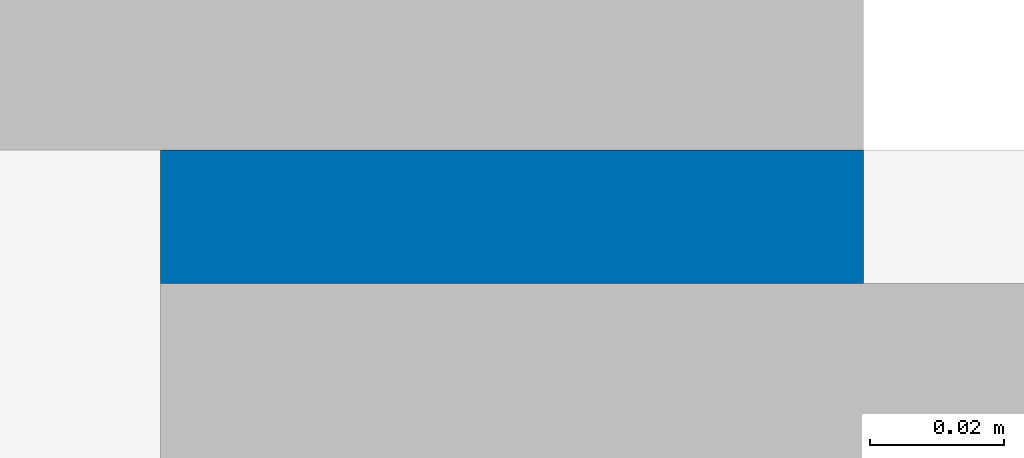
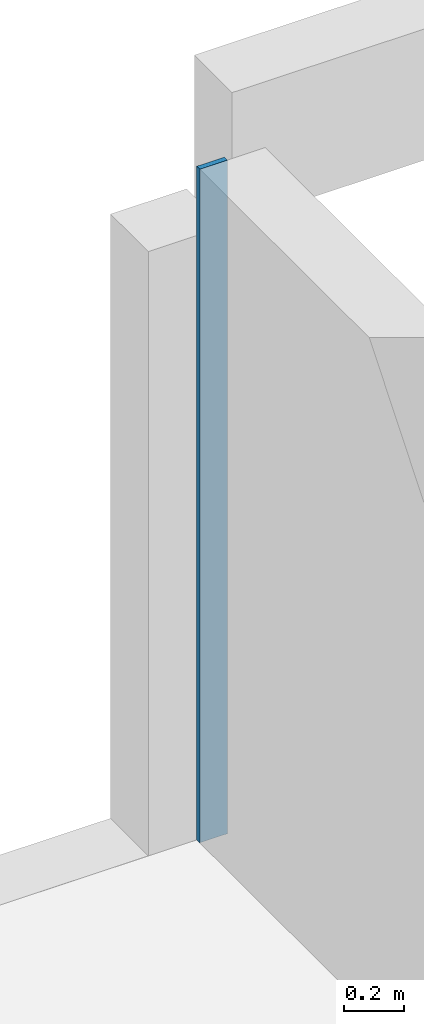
# One storey, part 16 of 22: 1 wall.
"""IFC2X3 building model written with IfcOpenShell, lengths in millimetres."""

from ifc_helpers import new_model, entity, si_unit, converted_unit, derived_unit, direction, frame, frame_2d, origin, place, context, subcontext, project, spatial, rectangle, extrude, material, layer, layer_set, layer_usage, type_object, element, save


model = new_model("IFC2X3")

# Units and contexts
model_context = context("Model", 3, precision=0.01, world=origin(), true_north=direction((6.12303176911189e-17, 1.0)))
body_context = subcontext(model_context, "Body", "Model", "MODEL_VIEW")
ifc_project = project(units=[si_unit("LENGTHUNIT", "METRE", prefix="MILLI"), si_unit("AREAUNIT", "SQUARE_METRE"), si_unit("VOLUMEUNIT", "CUBIC_METRE"), converted_unit("PLANEANGLEUNIT", "DEGREE", entity("IfcRatioMeasure", 0.0174532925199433), si_unit("PLANEANGLEUNIT", "RADIAN"), dimensions=[0, 0, 0, 0, 0, 0, 0]), si_unit("MASSUNIT", "GRAM", prefix="KILO"), derived_unit("MASSDENSITYUNIT", [(si_unit("MASSUNIT", "GRAM", prefix="KILO"), 1), (si_unit("LENGTHUNIT", "METRE"), -3)]), si_unit("TIMEUNIT", "SECOND"), si_unit("FREQUENCYUNIT", "HERTZ"), si_unit("THERMODYNAMICTEMPERATUREUNIT", "DEGREE_CELSIUS"), derived_unit("THERMALTRANSMITTANCEUNIT", [(si_unit("MASSUNIT", "GRAM", prefix="KILO"), 1), (si_unit("THERMODYNAMICTEMPERATUREUNIT", "KELVIN"), -1), (si_unit("TIMEUNIT", "SECOND"), -3)]), derived_unit("VOLUMETRICFLOWRATEUNIT", [(si_unit("LENGTHUNIT", "METRE"), 3), (si_unit("TIMEUNIT", "SECOND"), -1)]), si_unit("ELECTRICCURRENTUNIT", "AMPERE"), si_unit("ELECTRICVOLTAGEUNIT", "VOLT"), si_unit("POWERUNIT", "WATT"), si_unit("FORCEUNIT", "NEWTON", prefix="KILO"), si_unit("ILLUMINANCEUNIT", "LUX"), si_unit("LUMINOUSFLUXUNIT", "LUMEN"), si_unit("LUMINOUSINTENSITYUNIT", "CANDELA"), derived_unit("USERDEFINED", [(si_unit("MASSUNIT", "GRAM", prefix="KILO"), -1), (si_unit("LENGTHUNIT", "METRE"), -2), (si_unit("TIMEUNIT", "SECOND"), 3), (si_unit("LUMINOUSFLUXUNIT", "LUMEN"), 1)]), derived_unit("LINEARVELOCITYUNIT", [(si_unit("LENGTHUNIT", "METRE"), 1), (si_unit("TIMEUNIT", "SECOND"), -1)]), si_unit("PRESSUREUNIT", "PASCAL"), derived_unit("USERDEFINED", [(si_unit("LENGTHUNIT", "METRE"), -2), (si_unit("MASSUNIT", "GRAM", prefix="KILO"), 1), (si_unit("TIMEUNIT", "SECOND"), -2)])], contexts=[model_context])

# Site, building, storey
site_placement = place(None, origin())
site = spatial("IfcSite", under=ifc_project, at=site_placement, Name="Default", CompositionType="ELEMENT")
building_placement = place(site_placement, origin())
building = spatial("IfcBuilding", under=site, at=building_placement, Name="niet gebruiken", CompositionType="ELEMENT")
storey_placement = place(building_placement, frame((0.0, 0.0, 9630.0)))
storey = spatial("IfcBuildingStorey", under=building, at=storey_placement, Name="03 derde verdieping", CompositionType="ELEMENT", Elevation=9630.00000000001)

# Wall
ifc_material = material(Name="NLRS_f2_beton ihwg")
ifc_layer = layer(ifc_material, 105.0)
ifc_layer_set = layer_set([ifc_layer], Name="Basic Wall:NLRS_22.21_WA_beton ihwg d=105_gen")
ifc_layer_usage = layer_usage(ifc_layer_set, "AXIS2", "NEGATIVE", 52.5)
wall_type = type_object("IfcWallType", Name="Basic Wall:NLRS_22.21_WA_beton ihwg d=105_gen", PredefinedType="STANDARD", material=ifc_layer_set)
wall_placement = place(storey_placement, frame((59327.4999999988, 52986.0, -90.0), z_axis=(0.0, 0.0, 1.0), x_axis=(0.0, 1.0, 0.0)))
element("IfcWallStandardCase", 1, at=wall_placement, inside=storey, type_object=wall_type, material=ifc_layer_usage, Name="Basic Wall:NLRS_22.21_WA_beton ihwg d=105_gen", ObjectType="Basic Wall:NLRS_22.21_WA_beton ihwg d=105_gen", context=body_context, shape_type="SweptSolid", body=[
    extrude(rectangle(XDim=20.0000000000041, YDim=104.999999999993, at=frame_2d((10.0000000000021, 1.77635683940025e-14), x_axis=(-1.0, 0.0))), origin(), (0.0, 0.0, 1.0), 2720.0),
])

save(model, "model.ifc")
